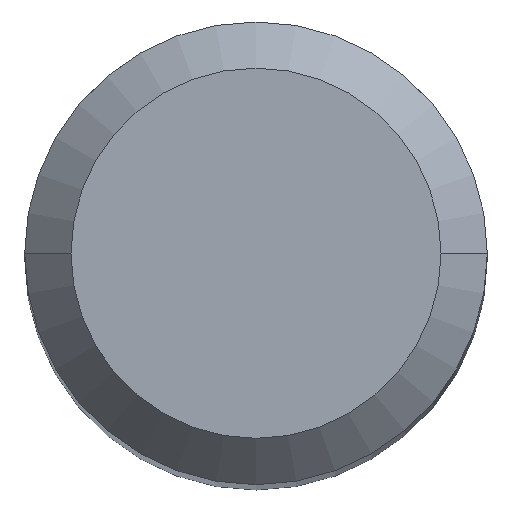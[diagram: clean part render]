
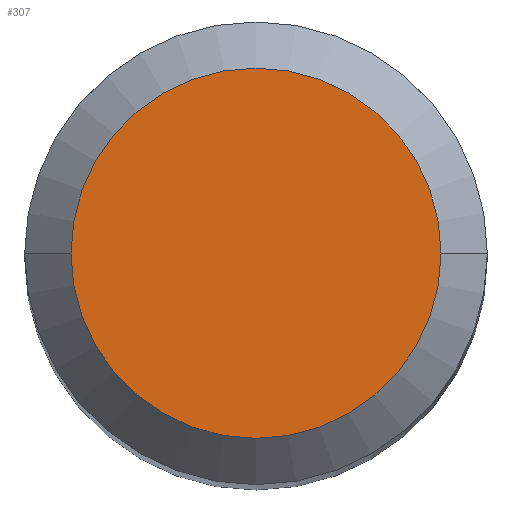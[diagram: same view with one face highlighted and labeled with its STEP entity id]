
A CAD part, top view. The second image highlights one B-rep face of the part: STEP entity #307.
In plain terms, the highlighted planar face has unit normal (0, 0, 1).
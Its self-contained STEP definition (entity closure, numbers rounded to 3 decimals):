
#9 = ORIENTED_EDGE ( 'NONE', *, *, #171, .F. ) ;
#44 = CARTESIAN_POINT ( 'NONE',  ( -4., 0., 0. ) ) ;
#66 = DIRECTION ( 'NONE',  ( 1., 0., 0. ) ) ;
#104 = CARTESIAN_POINT ( 'NONE',  ( 4., 0., 0. ) ) ;
#135 = CIRCLE ( 'NONE', #369, 4. ) ;
#171 = EDGE_CURVE ( 'NONE', #368, #210, #299, .T. ) ;
#172 = EDGE_LOOP ( 'NONE', ( #182, #9 ) ) ;
#182 = ORIENTED_EDGE ( 'NONE', *, *, #248, .F. ) ;
#197 = AXIS2_PLACEMENT_3D ( 'NONE', #236, #240, #366 ) ;
#199 = CARTESIAN_POINT ( 'NONE',  ( 0., 4., 0. ) ) ;
#204 = PLANE ( 'NONE',  #372 ) ;
#210 = VERTEX_POINT ( 'NONE', #44 ) ;
#217 = DIRECTION ( 'NONE',  ( -1., 0., 0. ) ) ;
#236 = CARTESIAN_POINT ( 'NONE',  ( 0., 0., 0. ) ) ;
#240 = DIRECTION ( 'NONE',  ( 0., 0., -1. ) ) ;
#248 = EDGE_CURVE ( 'NONE', #210, #368, #135, .T. ) ;
#292 = FACE_OUTER_BOUND ( 'NONE', #172, .T. ) ;
#299 = CIRCLE ( 'NONE', #197, 4. ) ;
#301 = DIRECTION ( 'NONE',  ( 0., 0., -1. ) ) ;
#304 = CARTESIAN_POINT ( 'NONE',  ( 0., 0., 0. ) ) ;
#307 = ADVANCED_FACE ( 'NONE', ( #292 ), #204, .T. ) ;
#366 = DIRECTION ( 'NONE',  ( -1., 0., 0. ) ) ;
#368 = VERTEX_POINT ( 'NONE', #104 ) ;
#369 = AXIS2_PLACEMENT_3D ( 'NONE', #304, #301, #217 ) ;
#372 = AXIS2_PLACEMENT_3D ( 'NONE', #199, #423, #66 ) ;
#423 = DIRECTION ( 'NONE',  ( 0., 0., 1. ) ) ;
